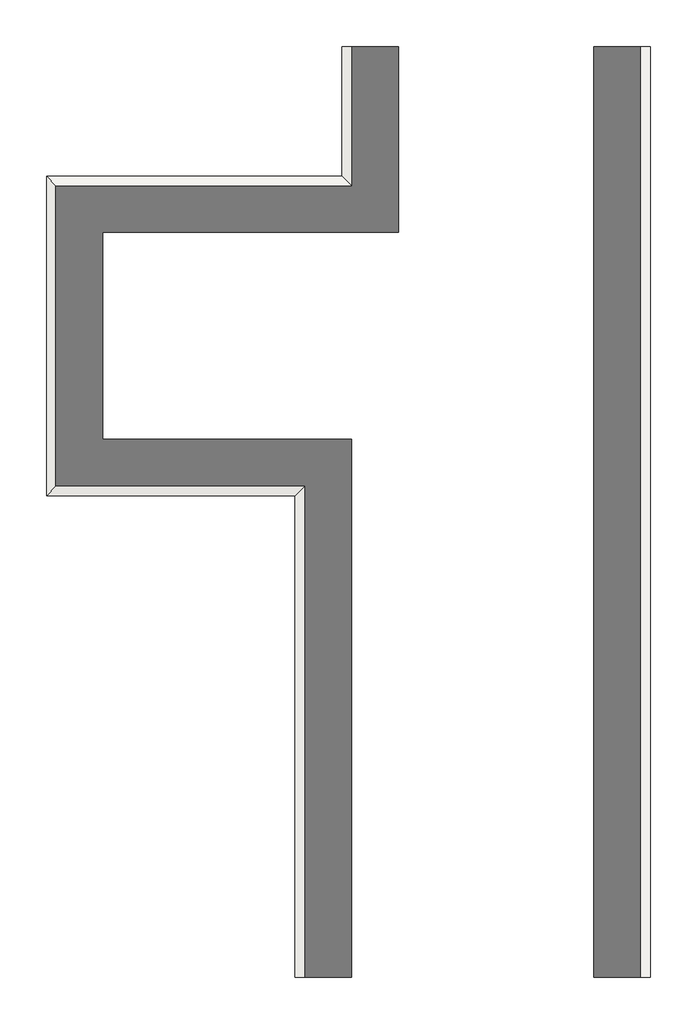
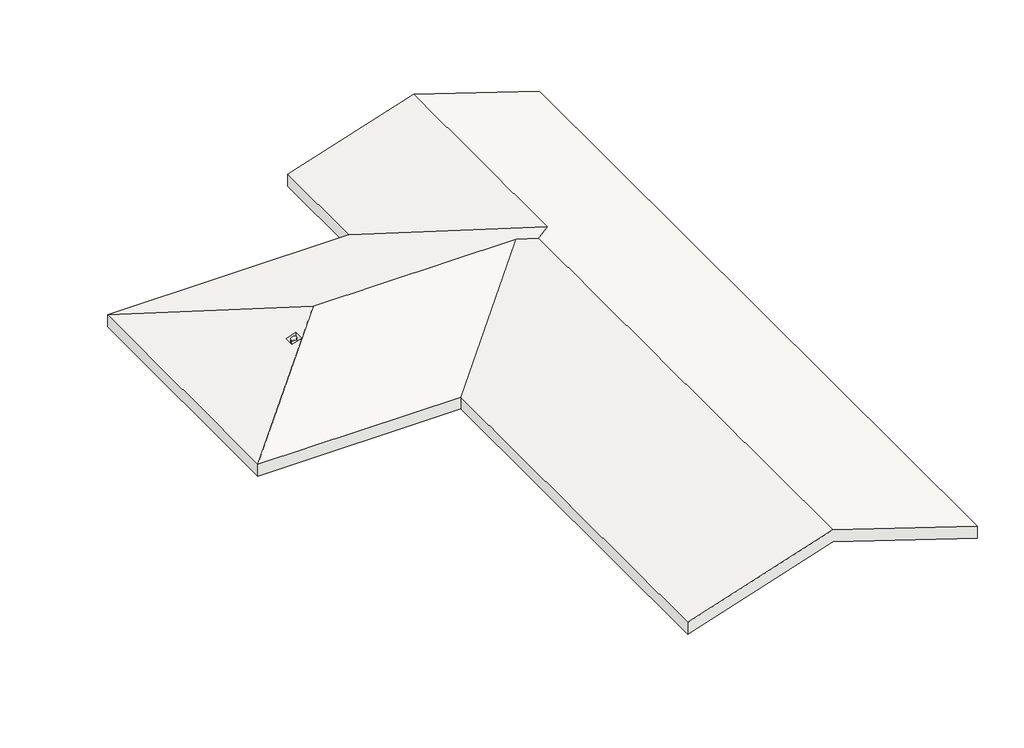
# One storey: 1 roof.
"""IFC4 building model written with IfcOpenShell, lengths in millimetres."""

import ifcopenshell
import ifcopenshell.guid

model = None  # the IFC model being written
_history = None  # IfcOwnerHistory: only IFC2X3 demands one
_inside = {}  # id of a spatial element -> (the spatial element, [elements in it])
_under = {}  # id of a project, library or spatial element -> (it, [spatial elements below it])
_declared = {}  # id of a project -> (the project, [libraries it declares])
_typed = {}  # id of a type object -> (the type object, [elements of that type])
_made_of = {}  # id of a material, layer set ... -> (it, [elements and type objects made of it])


def new_model(schema):
    """Start an empty IFC model of exactly this schema.

    Asked for "IFC4X3", IfcOpenShell would pick the latest addendum, in which some entities
    have other attributes; the version numbers below select the first issue.
    IFC2X3 requires an IfcOwnerHistory on every rooted entity: one is made here for all.
    """
    global model, _history
    if schema == "IFC4X3":
        model = ifcopenshell.file(schema_version=(4, 3, 0, 0))
    else:
        model = ifcopenshell.file(schema=schema)
    _inside.clear()
    _under.clear()
    _declared.clear()
    _typed.clear()
    _made_of.clear()
    _history = None
    if model.schema == "IFC2X3":
        org = make("IfcOrganization", Name="unknown")
        user = make(
            "IfcPersonAndOrganization",
            ThePerson=make("IfcPerson", FamilyName="unknown"),
            TheOrganization=org,
        )
        app = make(
            "IfcApplication",
            ApplicationDeveloper=org,
            Version="unknown",
            ApplicationFullName="unknown",
            ApplicationIdentifier="unknown",
        )
        _history = make(
            "IfcOwnerHistory",
            OwningUser=user,
            OwningApplication=app,
            ChangeAction="ADDED",
            CreationDate=0,
        )
    return model


def make(cls, **values):
    """One entity of the class cls with the attributes given. An attribute that is None is left unset."""
    return model.create_entity(
        cls, **{name: value for name, value in values.items() if value is not None}
    )


def rooted(cls, **values):
    """An entity with a GlobalId (a new one), such as an element, a storey or a relation."""
    return make(cls, GlobalId=ifcopenshell.guid.new(), OwnerHistory=_history, **values)


def si_unit(unit_type, name, prefix=None):
    """IfcSIUnit, for example si_unit("LENGTHUNIT", "METRE", prefix="MILLI")."""
    return make("IfcSIUnit", UnitType=unit_type, Prefix=prefix, Name=name)


def assignment(units):
    """IfcUnitAssignment: the units of a project."""
    return None if units is None else make("IfcUnitAssignment", Units=units)


def point(xyz):
    """IfcCartesianPoint."""
    return None if xyz is None else make("IfcCartesianPoint", Coordinates=xyz)


def direction(xyz):
    """IfcDirection."""
    return None if xyz is None else make("IfcDirection", DirectionRatios=xyz)


def frame(location, z_axis=None, x_axis=None):
    """IfcAxis2Placement3D, a coordinate frame: its origin and axes. An axis left out is left unset."""
    return make(
        "IfcAxis2Placement3D",
        Location=point(location),
        Axis=direction(z_axis),
        RefDirection=direction(x_axis),
    )


def origin():
    """The frame at (0, 0, 0) with its axes left unset."""
    return frame((0.0, 0.0, 0.0))


def place(relative_to, where):
    """IfcLocalPlacement: puts the frame where relative to a parent placement (None: the world)."""
    return make(
        "IfcLocalPlacement", PlacementRelTo=relative_to, RelativePlacement=where
    )


def context(
    kind, dimensions, precision=None, world=None, true_north=None, identifier=None
):
    """IfcGeometricRepresentationContext, for example the 3D "Model" context."""
    return make(
        "IfcGeometricRepresentationContext",
        ContextIdentifier=identifier,
        ContextType=kind,
        CoordinateSpaceDimension=dimensions,
        Precision=precision,
        WorldCoordinateSystem=world,
        TrueNorth=true_north,
    )


def project(units=None, contexts=None):
    """IfcProject with its units and contexts."""
    return rooted(
        "IfcProject",
        Name="project",
        RepresentationContexts=contexts,
        UnitsInContext=assignment(units),
    )


def spatial(cls, under=None, at=None, **own):
    """A site, building, storey or space (cls), placed at a placement, below another one or the project."""
    s = rooted(cls, ObjectPlacement=at, **own)
    if under is not None:
        _under.setdefault(under.id(), (under, []))[1].append(s)
    return s


def ellipse_curve(where, semi_axis1, semi_axis2):
    """IfcEllipse in the frame where."""
    return make(
        "IfcEllipse", Position=where, SemiAxis1=semi_axis1, SemiAxis2=semi_axis2
    )


def faces_of(points, faces, orient=None, outer=None):
    """IfcFace entities. A face is a list of loops; a loop is a list of indices into points, from 0.

    orient and outer hold one flag for each loop. By default every Orientation is true, the
    first loop of a face is its IfcFaceOuterBound and the others are IfcFaceBound.
    """
    made = []
    for i, loops in enumerate(faces):
        bounds = []
        for j, loop in enumerate(loops):
            is_outer = j == 0 if outer is None else outer[i][j]
            bounds.append(
                make(
                    "IfcFaceOuterBound" if is_outer else "IfcFaceBound",
                    Bound=make("IfcPolyLoop", Polygon=[points[k] for k in loop]),
                    Orientation=True if orient is None else orient[i][j],
                )
            )
        made.append(make("IfcFace", Bounds=bounds))
    return made


def faceted_brep(points, faces, orient=None, outer=None, voids=None):
    """IfcFacetedBrep: a solid bounded by flat faces; with voids (closed shells), ...WithVoids."""
    shared = [point(p) for p in points]
    hull = make("IfcClosedShell", CfsFaces=faces_of(shared, faces, orient, outer))
    if voids is None:
        return make("IfcFacetedBrep", Outer=hull)
    return make(
        "IfcFacetedBrepWithVoids",
        Outer=hull,
        Voids=[
            make(cls, CfsFaces=faces_of(shared, fs, o, b)) for cls, fs, o, b in voids
        ],
    )


def shape(context_of_items, identifier, shape_type, items):
    """IfcShapeRepresentation: the items that make up one representation, for example the "Body"."""
    return make(
        "IfcShapeRepresentation",
        ContextOfItems=context_of_items,
        RepresentationIdentifier=identifier,
        RepresentationType=shape_type,
        Items=items,
    )


def made_of(thing, what):
    """Note that an element or type object is made of a material, layer set ...; save() writes the relation."""
    if what is not None:
        _made_of.setdefault(what.id(), (what, []))[1].append(thing)
    return thing


def element(
    cls,
    number,
    at=None,
    inside=None,
    cuts=None,
    type_object=None,
    material=None,
    context=None,
    identifier="Body",
    shape_type=None,
    held_by="IfcProductDefinitionShape",
    body=None,
    shapes=None,
    **own,
):
    """One element of the class cls, such as IfcWall. Its Tag is "e" and its number.

    at: its placement. inside: the storey or other place that contains it. cuts: it is an
    opening in that element (IfcRelVoidsElement). A single representation is given by context,
    identifier, shape_type and body (its items); several are given by shapes. held_by: the class
    of the entity that holds the representations. save() writes the other relations.
    """
    e = rooted(cls, Tag="e%d" % number, ObjectPlacement=at, **own)
    if body is not None:
        shapes = [shape(context, identifier, shape_type, body)]
    if shapes is not None:
        e.Representation = make(held_by, Representations=shapes)
    if inside is not None:
        _inside.setdefault(inside.id(), (inside, []))[1].append(e)
    if cuts is not None:
        rooted(
            "IfcRelVoidsElement", RelatingBuildingElement=cuts, RelatedOpeningElement=e
        )
    if type_object is not None:
        _typed.setdefault(type_object.id(), (type_object, []))[1].append(e)
    return made_of(e, material)


def aggregate(whole, parts):
    """IfcRelAggregates: a whole, such as a stair, and the parts it consists of."""
    return rooted("IfcRelAggregates", RelatingObject=whole, RelatedObjects=parts)


def save(model, path):
    """Write the relations noted so far, then the file.

    IfcRelAggregates (storeys below a building ...), IfcRelContainedInSpatialStructure (elements
    in a storey), IfcRelDefinesByType, IfcRelAssociatesMaterial and IfcRelDeclares: one each for
    every whole, place, type object, material and project.
    """
    for whole, parts in _under.values():
        aggregate(whole, parts)
    for where, things in _inside.values():
        rooted(
            "IfcRelContainedInSpatialStructure",
            RelatedElements=things,
            RelatingStructure=where,
        )
    for kind, things in _typed.values():
        rooted("IfcRelDefinesByType", RelatedObjects=things, RelatingType=kind)
    for what, things in _made_of.values():
        rooted("IfcRelAssociatesMaterial", RelatedObjects=things, RelatingMaterial=what)
    for by, libraries in _declared.values():
        rooted("IfcRelDeclares", RelatingContext=by, RelatedDefinitions=libraries)
    model.write(path)


def plane_surface(at):
    """IfcPlane: the flat surface through the origin of the frame at, square to its z axis."""
    return make("IfcPlane", Position=at)


def cylinder_surface(at, radius):
    """IfcCylindricalSurface: all points at the distance radius from the z axis of the frame at."""
    return make("IfcCylindricalSurface", Position=at, Radius=radius)


def advanced_brep(points, edges, surfaces, faces):
    """IfcAdvancedBrep: a solid bounded by faces that lie on surfaces and meet in shared edges.

    An edge is (start, end): straight between two places in points (the first is 0);
    or (start, end, curve); or (start, end, curve, False) where it runs against its curve.
    A face is (place in surfaces, loops), or (place, loops, False) where it looks against
    its surface's normal. A loop lists edges by number (the first is 1), with a minus sign
    where the edge is run from its end to its start. The first loop is the outer one.
    """
    corners = [point(p) for p in points]
    vertices = [make("IfcVertexPoint", VertexGeometry=c) for c in corners]
    made = []
    for start, end, *more in edges:
        made.append(
            make(
                "IfcEdgeCurve",
                EdgeStart=vertices[start],
                EdgeEnd=vertices[end],
                EdgeGeometry=more[0] if more else make("IfcPolyline", Points=[corners[start], corners[end]]),
                SameSense=more[1] if len(more) > 1 else True,
            )
        )
    hull = []
    for where, loops, *sense in faces:
        bounds = []
        for j, loop in enumerate(loops):
            ring = [make("IfcOrientedEdge", EdgeElement=made[abs(k) - 1], Orientation=k > 0) for k in loop]
            bounds.append(
                make(
                    "IfcFaceOuterBound" if j == 0 else "IfcFaceBound",
                    Bound=make("IfcEdgeLoop", EdgeList=ring),
                    Orientation=True,
                )
            )
        hull.append(make("IfcAdvancedFace", Bounds=bounds, FaceSurface=surfaces[where], SameSense=sense[0] if sense else True))
    return make("IfcAdvancedBrep", Outer=make("IfcClosedShell", CfsFaces=hull))


model = new_model("IFC4")

# Units and contexts
model_context = context("Model", 3, world=origin())
ifc_project = project(units=[si_unit("LENGTHUNIT", "METRE", prefix="MILLI")], contexts=[model_context])

# Site, building, storey
site = spatial("IfcSite", under=ifc_project)
building = spatial("IfcBuilding", under=site)
storey = spatial("IfcBuildingStorey", under=building, Name="Střecha", Elevation=14750.0)

# Roof
placement = place(None, origin())
element("IfcRoof", 1, ObjectType="Main roof", at=placement, inside=storey, context=model_context, shape_type="SolidModel", body=[
    faceted_brep([(-671.5846805, 11592.3927558, 15495.936781), (3156.9978058, 11592.3927558, 16739.9186395), (3156.9978058, 4543.4350317, 16739.9186395), (-671.5846805, 8372.0175181, 15495.936781), (2571.9978058, 3958.4350317, 16929.9966618), (2125.9044897, 4404.5283479, 16785.052157), (-4054.360747, 4404.5283479, 16785.052157), (-8021.8499172, 8372.0175181, 15495.936781), (-8021.8499172, 437.0391776, 15495.936781), (-4857.1962165, 3917.6290541, 16524.1951001), (-5157.1962165, 3917.6290541, 16426.7191913), (-5157.1962165, 3617.6290541, 16426.7191913), (-4857.1962165, 3617.6290541, 16524.1951001), (-1841.5846805, 437.0391776, 15495.936781), (2571.9978058, -11532.3709459, 16929.9966618), (-1841.5846805, -11532.3709459, 15495.936781), (6985.5802922, 11592.3927558, 15495.936781), (6985.5802922, -11532.3709459, 15495.936781), (-671.5846805, 11592.3927558, 15874.4631818), (-671.5846805, 8372.0175181, 15874.4631818), (3156.9978058, 4543.4350317, 17118.4450402), (3156.9978058, 11592.3927558, 17118.4450402), (-8021.8499172, 8372.0175181, 15874.4631818), (-4054.360747, 4404.5283479, 17163.5785578), (2125.9044897, 4404.5283479, 17163.5785578), (2571.9978058, 3958.4350317, 17308.5230625), (-8021.8499172, 437.0391776, 15874.4631818), (-5157.1962165, 3917.6290541, 16805.245592), (-4857.1962165, 3917.6290541, 16902.7215009), (-4857.1962165, 3617.6290541, 16902.7215009), (-5157.1962165, 3617.6290541, 16805.245592), (-1841.5846805, 437.0391776, 15874.4631818), (-1841.5846805, -11532.3709459, 15874.4631818), (2571.9978058, -11532.3709459, 17308.5230625), (6985.5802922, -11532.3709459, 15874.4631818), (6985.5802922, 11592.3927558, 15874.4631818)], [[[0, 1, 2, 3]], [[3, 2, 4, 5, 6, 7]], [[7, 6, 8], [9, 10, 11, 12]], [[8, 6, 5, 13]], [[13, 5, 4, 14, 15]], [[1, 16, 17, 14, 4, 2]], [[18, 19, 20, 21]], [[19, 22, 23, 24, 25, 20]], [[22, 26, 23], [27, 28, 29, 30]], [[26, 31, 24, 23]], [[31, 32, 33, 25, 24]], [[34, 35, 21, 20, 25, 33]], [[19, 18, 0, 3]], [[22, 19, 3, 7]], [[26, 22, 7, 8]], [[31, 26, 8, 13]], [[32, 31, 13, 15]], [[35, 34, 17, 16]], [[16, 1, 0, 18, 21, 35]], [[15, 14, 17, 34, 33, 32]], [[9, 28, 27, 10]], [[10, 27, 30, 11]], [[11, 30, 29, 12]], [[28, 9, 12, 29]]]),
    advanced_brep(
    [(-5087.1962165, 3767.6290541, 16449.46357), (-4927.1962165, 3767.6290541, 16501.4507214), (-4927.1962165, 3767.6290541, 16879.9771221), (-5087.1962165, 3767.6290541, 16827.9899707)],
    [
        (0, 1, ellipse_curve(frame((-5007.1962165, 3767.6290541, 16475.4571457), z_axis=(0.30901699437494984, 0.0, -0.9510565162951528), x_axis=(-0.9510565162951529, 0.0, -0.30901699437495)), 84.1169779, 80.0)),
        (1, 0, ellipse_curve(frame((-5007.1962165, 3767.6290541, 16475.4571457), z_axis=(0.30901699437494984, 0.0, -0.9510565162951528), x_axis=(-0.9510565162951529, 0.0, -0.30901699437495)), 84.1169779, 80.0)),
        (2, 3, ellipse_curve(frame((-5007.1962165, 3767.6290541, 16853.9835464), z_axis=(-0.30901699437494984, 0.0, 0.9510565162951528), x_axis=(-0.9510565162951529, 0.0, -0.30901699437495)), 84.1169779, 80.0)),
        (3, 2, ellipse_curve(frame((-5007.1962165, 3767.6290541, 16853.9835464), z_axis=(-0.30901699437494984, 0.0, 0.9510565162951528), x_axis=(-0.9510565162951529, 0.0, -0.30901699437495)), 84.1169779, 80.0)),
        (0, 3),
        (2, 1),
    ],
    [
        plane_surface(frame((-8021.8499172, 8372.0175181, 15495.936781), z_axis=(0.30901699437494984, 0.0, -0.9510565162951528), x_axis=(0.0, -1.0, 0.0))),
        plane_surface(frame((-8021.8499172, 8372.0175181, 15874.4631818), z_axis=(-0.30901699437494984, 0.0, 0.9510565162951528), x_axis=(0.0, -1.0, 0.0))),
        cylinder_surface(frame((-5007.1962165, 3767.6290541, 0.0), z_axis=(0.0, 0.0, -1.0), x_axis=(1.0, 0.0, 0.0)), 80.0),
    ],
    [
        (0, [[1, 2]]),
        (1, [[3, 4]]),
        (2, [[5, -3, 6, -1]]),
        (2, [[-5, -2, -6, -4]]),
    ],
),
])

save(model, "model.ifc")
